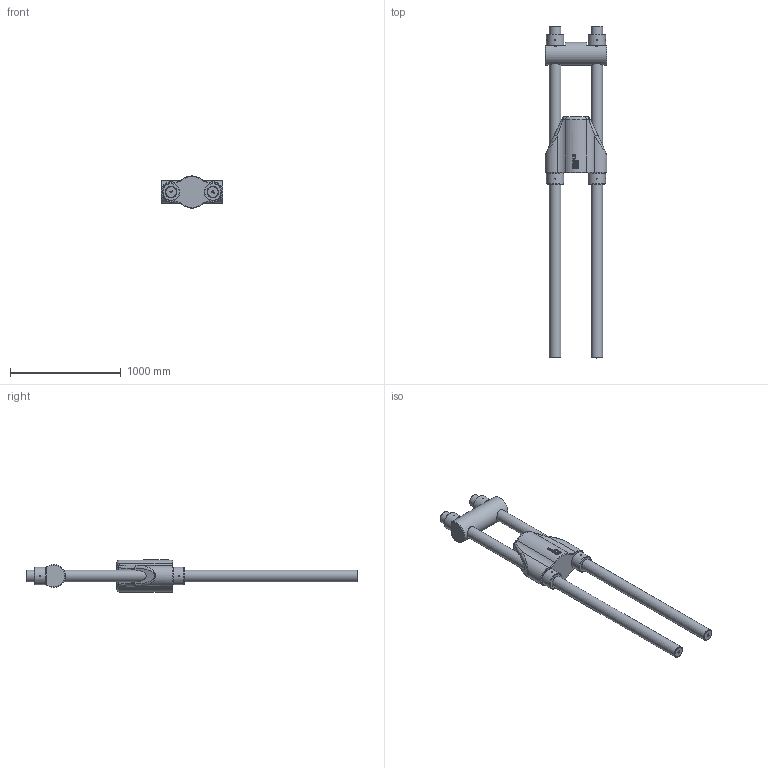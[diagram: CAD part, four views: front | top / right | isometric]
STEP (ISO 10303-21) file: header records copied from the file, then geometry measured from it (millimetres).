
FILE_DESCRIPTION(/* description */ (''),/* implementation_level */ '2;1');
FILE_NAME(/* name */ 'D:\Clienti\Redaelli (inventor)\BRC\STEP\Arrangemet\BRC092 72 111 0.stp',/* time_stamp */ '2021-05-08T08:37:28+02:00',/* author */ ('fabri'),/* organization */ (''),/* preprocessor_version */ 'ST-DEVELOPER v16.13',/* originating_system */ 'Autodesk Inventor 2018',/* authorisation */ '');
FILE_SCHEMA (('AUTOMOTIVE_DESIGN { 1 0 10303 214 3 1 1 }'));
Length unit declared in the file: millimetre
Products named in the file (5): BRC020 72 111 0; BRC020 71 112 0; BRC020 71 114 0_ROD; BRC020 71 113 0; BRC020 71 114 0_NUT
Assembly tree (8 placements, depth 2):
  BRC020 72 111 0
    BRC020 71 112 0
    BRC020 71 114 0_ROD  x2
    BRC020 71 113 0
    BRC020 71 114 0_NUT  x4
Bounding box: 560 x 3000 x 289.48 mm (x, y, z)
Volume: 113165279.6 mm3; surface area: 3914166.4 mm2
Topology: 8 solids, 8 shells, 1550 faces, 4178 edges, 2774 vertices
Faces by surface type: bspline 743, plane 685, cylinder 68, cone 30, torus 20, sphere 4
Full cylindrical faces by diameter (mm): 8 x16, 98.505 x4, 105 x2, 110 x4, 157.5 x4, 208 x1
Entity records: 31154 total; most frequent: CARTESIAN_POINT 12462, ORIENTED_EDGE 4490, DIRECTION 2551, EDGE_CURVE 2245, VERTEX_POINT 1496, LINE 1209, VECTOR 1209, EDGE_LOOP 953
